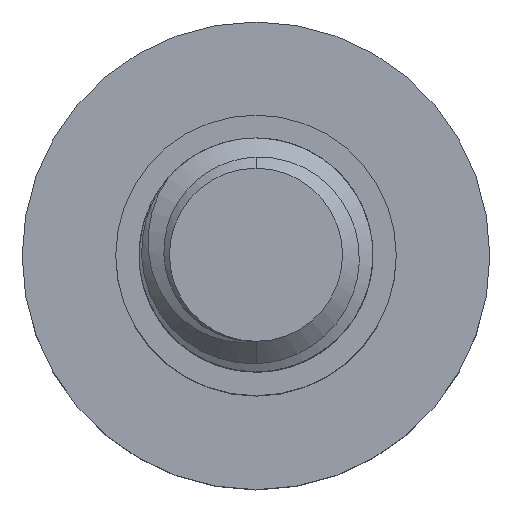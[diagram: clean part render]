
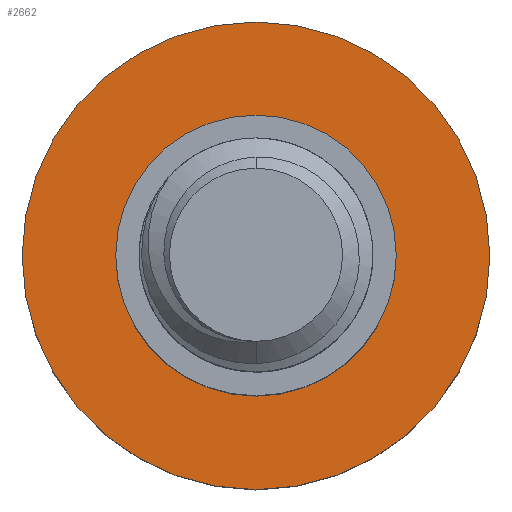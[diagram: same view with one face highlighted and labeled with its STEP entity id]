
A CAD part, top view. The second image highlights one B-rep face of the part: STEP entity #2662.
In plain terms, the highlighted planar face has unit normal (0, 0, 1).
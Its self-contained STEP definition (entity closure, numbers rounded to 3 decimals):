
#90 = CIRCLE ( 'NONE', #3475, 10. ) ;
#133 = CARTESIAN_POINT ( 'NONE',  ( 10., 0., -10. ) ) ;
#171 = FACE_BOUND ( 'NONE', #2368, .T. ) ;
#298 = CIRCLE ( 'NONE', #2982, 6. ) ;
#384 = DIRECTION ( 'NONE',  ( 0., 0., -1. ) ) ;
#460 = CARTESIAN_POINT ( 'NONE',  ( -6., 0., -10. ) ) ;
#496 = CIRCLE ( 'NONE', #2494, 10. ) ;
#513 = EDGE_CURVE ( 'NONE', #1617, #2905, #298, .T. ) ;
#568 = DIRECTION ( 'NONE',  ( -1., 0., 0. ) ) ;
#927 = DIRECTION ( 'NONE',  ( -1., 0., 0. ) ) ;
#937 = CIRCLE ( 'NONE', #1385, 6. ) ;
#940 = AXIS2_PLACEMENT_3D ( 'NONE', #2317, #384, #2045 ) ;
#977 = VERTEX_POINT ( 'NONE', #133 ) ;
#1193 = CARTESIAN_POINT ( 'NONE',  ( -10., 0., -10. ) ) ;
#1235 = CARTESIAN_POINT ( 'NONE',  ( 0., 0., -10. ) ) ;
#1344 = CARTESIAN_POINT ( 'NONE',  ( 0., 0., -10. ) ) ;
#1372 = EDGE_CURVE ( 'NONE', #977, #2177, #90, .T. ) ;
#1385 = AXIS2_PLACEMENT_3D ( 'NONE', #1235, #1817, #2966 ) ;
#1518 = PLANE ( 'NONE',  #940 ) ;
#1617 = VERTEX_POINT ( 'NONE', #460 ) ;
#1705 = EDGE_CURVE ( 'NONE', #2905, #1617, #937, .T. ) ;
#1812 = FACE_OUTER_BOUND ( 'NONE', #1854, .T. ) ;
#1817 = DIRECTION ( 'NONE',  ( 0., 0., -1. ) ) ;
#1854 = EDGE_LOOP ( 'NONE', ( #2667, #3213 ) ) ;
#2045 = DIRECTION ( 'NONE',  ( -1., 0., 0. ) ) ;
#2075 = DIRECTION ( 'NONE',  ( 0., 0., -1. ) ) ;
#2177 = VERTEX_POINT ( 'NONE', #1193 ) ;
#2317 = CARTESIAN_POINT ( 'NONE',  ( 0., 0., -10. ) ) ;
#2368 = EDGE_LOOP ( 'NONE', ( #2596, #2433 ) ) ;
#2433 = ORIENTED_EDGE ( 'NONE', *, *, #1705, .T. ) ;
#2494 = AXIS2_PLACEMENT_3D ( 'NONE', #2584, #3182, #927 ) ;
#2584 = CARTESIAN_POINT ( 'NONE',  ( 0., 0., -10. ) ) ;
#2596 = ORIENTED_EDGE ( 'NONE', *, *, #513, .T. ) ;
#2639 = EDGE_CURVE ( 'NONE', #2177, #977, #496, .T. ) ;
#2662 = ADVANCED_FACE ( 'NONE', ( #171, #1812 ), #1518, .F. ) ;
#2667 = ORIENTED_EDGE ( 'NONE', *, *, #1372, .F. ) ;
#2905 = VERTEX_POINT ( 'NONE', #3142 ) ;
#2966 = DIRECTION ( 'NONE',  ( -1., 0., 0. ) ) ;
#2982 = AXIS2_PLACEMENT_3D ( 'NONE', #1344, #3004, #568 ) ;
#3004 = DIRECTION ( 'NONE',  ( 0., 0., -1. ) ) ;
#3120 = DIRECTION ( 'NONE',  ( -1., 0., 0. ) ) ;
#3142 = CARTESIAN_POINT ( 'NONE',  ( 6., 0., -10. ) ) ;
#3182 = DIRECTION ( 'NONE',  ( 0., 0., -1. ) ) ;
#3213 = ORIENTED_EDGE ( 'NONE', *, *, #2639, .F. ) ;
#3410 = CARTESIAN_POINT ( 'NONE',  ( 0., 0., -10. ) ) ;
#3475 = AXIS2_PLACEMENT_3D ( 'NONE', #3410, #2075, #3120 ) ;
